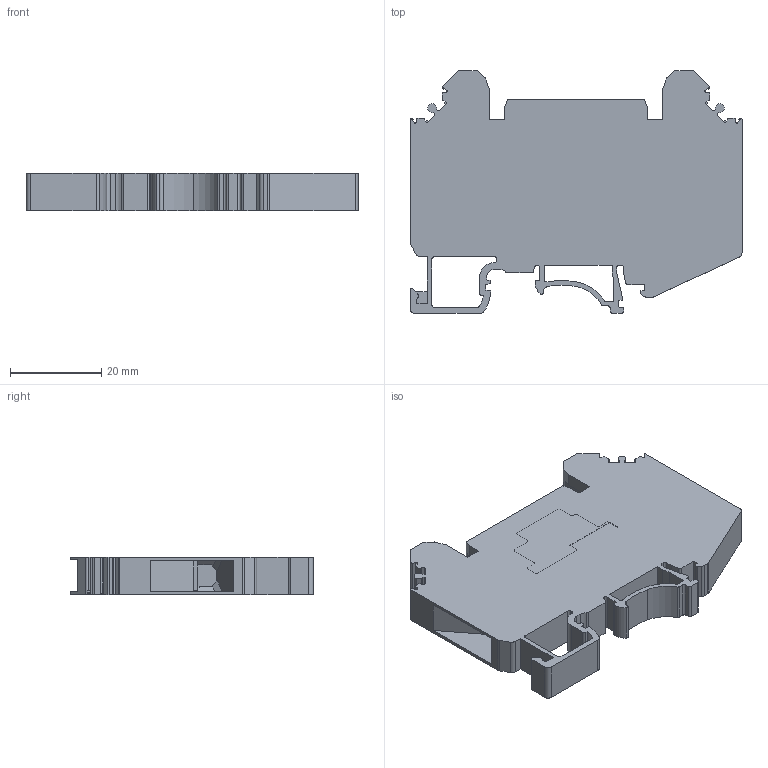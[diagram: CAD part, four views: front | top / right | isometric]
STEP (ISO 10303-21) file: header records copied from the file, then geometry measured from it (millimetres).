
FILE_DESCRIPTION(('Open CASCADE Model'),'2;1');
FILE_NAME('Open CASCADE Shape Model','2026-07-13T16:12:00',('Author'),( 'Open CASCADE'),'Open CASCADE STEP processor 6.5','Open CASCADE 6.5' ,'Unknown');
FILE_SCHEMA(('AUTOMOTIVE_DESIGN { 1 0 10303 214 1 1 1 1 }'));
Length unit declared in the file: millimetre
Products named in the file (671): CADSOFTTOOLS 1; CADSOFTTOOLS 1.1; CADSOFTTOOLS 1.2; CADSOFTTOOLS 1.3; CADSOFTTOOLS 1.4; CADSOFTTOOLS 1.5; CADSOFTTOOLS 1.6; CADSOFTTOOLS 1.7; CADSOFTTOOLS 1.8; CADSOFTTOOLS 1.9; CADSOFTTOOLS 1.10; CADSOFTTOOLS 1.11; CADSOFTTOOLS 1.12; CADSOFTTOOLS 1.13; CADSOFTTOOLS 1.14; CADSOFTTOOLS 1.15; CADSOFTTOOLS 1.16; CADSOFTTOOLS 1.17; CADSOFTTOOLS 1.18; CADSOFTTOOLS 1.19; CADSOFTTOOLS 1.20; CADSOFTTOOLS 1.21; CADSOFTTOOLS 1.22; CADSOFTTOOLS 1.23; CADSOFTTOOLS 1.24; CADSOFTTOOLS 1.25; CADSOFTTOOLS 1.26; CADSOFTTOOLS 1.27; CADSOFTTOOLS 1.28; CADSOFTTOOLS 1.29; CADSOFTTOOLS 1.30; CADSOFTTOOLS 1.31; CADSOFTTOOLS 1.32; CADSOFTTOOLS 1.33; CADSOFTTOOLS 1.34; CADSOFTTOOLS 1.35; CADSOFTTOOLS 1.36; CADSOFTTOOLS 1.37; CADSOFTTOOLS 1.38; CADSOFTTOOLS 1.39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
Assembly tree (670 placements, depth 2):
  CADSOFTTOOLS 1
    CADSOFTTOOLS 1.1
    CADSOFTTOOLS 1.2
    CADSOFTTOOLS 1.3
    CADSOFTTOOLS 1.4
    CADSOFTTOOLS 1.5
    CADSOFTTOOLS 1.6
    CADSOFTTOOLS 1.7
    CADSOFTTOOLS 1.8
    CADSOFTTOOLS 1.9
    CADSOFTTOOLS 1.10
    CADSOFTTOOLS 1.11
    CADSOFTTOOLS 1.12
    CADSOFTTOOLS 1.13
    CADSOFTTOOLS 1.14
    CADSOFTTOOLS 1.15
    CADSOFTTOOLS 1.16
    CADSOFTTOOLS 1.17
    CADSOFTTOOLS 1.18
    CADSOFTTOOLS 1.19
    CADSOFTTOOLS 1.20
    CADSOFTTOOLS 1.21
    CADSOFTTOOLS 1.22
    CADSOFTTOOLS 1.23
    CADSOFTTOOLS 1.24
    CADSOFTTOOLS 1.25
    CADSOFTTOOLS 1.26
    CADSOFTTOOLS 1.27
    CADSOFTTOOLS 1.28
    CADSOFTTOOLS 1.29
    CADSOFTTOOLS 1.30
    CADSOFTTOOLS 1.31
    CADSOFTTOOLS 1.32
    CADSOFTTOOLS 1.33
    CADSOFTTOOLS 1.34
    CADSOFTTOOLS 1.35
    CADSOFTTOOLS 1.36
    CADSOFTTOOLS 1.37
    CADSOFTTOOLS 1.38
    CADSOFTTOOLS 1.39
    CADSOFTTOOLS 1.40
    CADSOFTTOOLS 1.41
    CADSOFTTOOLS 1.42
    CADSOFTTOOLS 1.43
    CADSOFTTOOLS 1.44
    CADSOFTTOOLS 1.45
    CADSOFTTOOLS 1.46
    CADSOFTTOOLS 1.47
    CADSOFTTOOLS 1.48
    CADSOFTTOOLS 1.49
    CADSOFTTOOLS 1.50
    CADSOFTTOOLS 1.51
    CADSOFTTOOLS 1.52
    CADSOFTTOOLS 1.53
    CADSOFTTOOLS 1.54
    CADSOFTTOOLS 1.55
    CADSOFTTOOLS 1.56
    CADSOFTTOOLS 1.57
    CADSOFTTOOLS 1.58
    CADSOFTTOOLS 1.59
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Bounding box: 72.6 x 53.1 x 8.15 mm (x, y, z)
Surface area: 13591.6 mm2 (no closed solid volume)
Topology: 0 solids, 670 shells, 670 faces, 3922 edges, 3914 vertices
Faces by surface type: plane 375, cylinder 225, cone 40, torus 12, bspline 10, sphere 8
Entity records: 122277 total; most frequent: CARTESIAN_POINT 61162, DIRECTION 9427, LINE 4542, VECTOR 4542, ORIENTED_EDGE 3914, EDGE_CURVE 3914, VERTEX_POINT 3914, SURFACE_CURVE 3914
